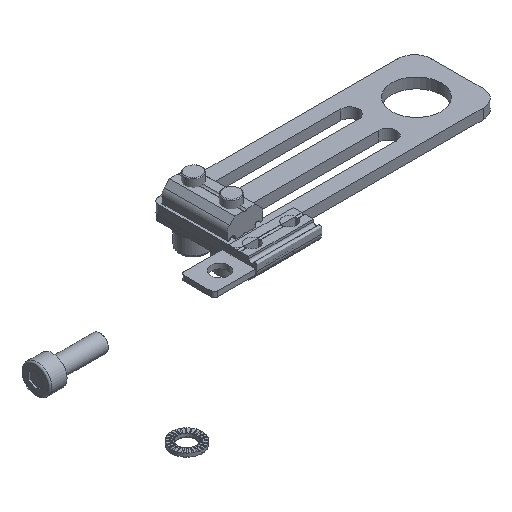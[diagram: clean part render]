
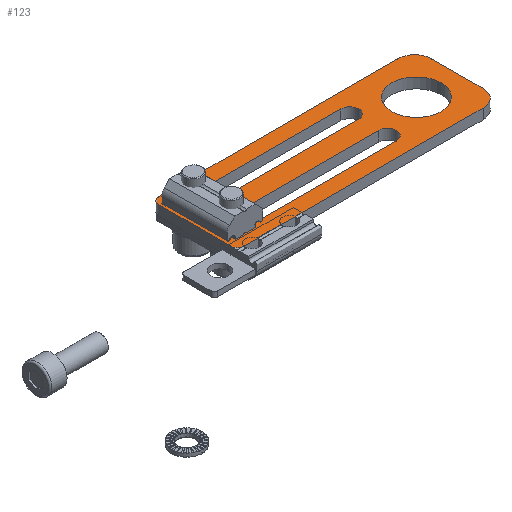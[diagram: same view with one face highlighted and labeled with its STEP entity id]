
A CAD part, isometric view. The second image highlights one B-rep face of the part: STEP entity #123.
In plain terms, the highlighted planar face has unit normal (0, 0, 1).
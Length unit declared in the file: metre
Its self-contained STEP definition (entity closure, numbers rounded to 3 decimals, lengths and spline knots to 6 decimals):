
#123 = ADVANCED_FACE( '', ( #213, #214, #215, #216 ), #217, .T. );
#213 = FACE_BOUND( '', #322, .T. );
#214 = FACE_BOUND( '', #323, .T. );
#215 = FACE_OUTER_BOUND( '', #324, .T. );
#216 = FACE_BOUND( '', #325, .T. );
#217 = PLANE( '', #326 );
#322 = EDGE_LOOP( '', ( #885, #886, #887, #888 ) );
#323 = EDGE_LOOP( '', ( #889, #890, #891, #892 ) );
#324 = EDGE_LOOP( '', ( #893, #894, #895, #896, #897, #898, #899, #900 ) );
#325 = EDGE_LOOP( '', ( #901 ) );
#326 = AXIS2_PLACEMENT_3D( '', #902, #903, #904 );
#885 = ORIENTED_EDGE( '', *, *, #1978, .F. );
#886 = ORIENTED_EDGE( '', *, *, #1989, .F. );
#887 = ORIENTED_EDGE( '', *, *, #1990, .F. );
#888 = ORIENTED_EDGE( '', *, *, #1991, .F. );
#889 = ORIENTED_EDGE( '', *, *, #1992, .F. );
#890 = ORIENTED_EDGE( '', *, *, #1993, .F. );
#891 = ORIENTED_EDGE( '', *, *, #1994, .F. );
#892 = ORIENTED_EDGE( '', *, *, #1995, .F. );
#893 = ORIENTED_EDGE( '', *, *, #1996, .T. );
#894 = ORIENTED_EDGE( '', *, *, #1997, .T. );
#895 = ORIENTED_EDGE( '', *, *, #1971, .T. );
#896 = ORIENTED_EDGE( '', *, *, #1998, .T. );
#897 = ORIENTED_EDGE( '', *, *, #1999, .T. );
#898 = ORIENTED_EDGE( '', *, *, #1984, .T. );
#899 = ORIENTED_EDGE( '', *, *, #2000, .T. );
#900 = ORIENTED_EDGE( '', *, *, #2001, .T. );
#901 = ORIENTED_EDGE( '', *, *, #1981, .F. );
#902 = CARTESIAN_POINT( '', ( 0., 0.000386, 0.003 ) );
#903 = DIRECTION( '', ( 0., 0., 1. ) );
#904 = DIRECTION( '', ( 1., 0., 0. ) );
#1971 = EDGE_CURVE( '', #2980, #2981, #2982, .T. );
#1978 = EDGE_CURVE( '', #2992, #2994, #2995, .T. );
#1981 = EDGE_CURVE( '', #2998, #2998, #2999, .T. );
#1984 = EDGE_CURVE( '', #3003, #3004, #3005, .T. );
#1989 = EDGE_CURVE( '', #3012, #2992, #3013, .T. );
#1990 = EDGE_CURVE( '', #3014, #3012, #3015, .T. );
#1991 = EDGE_CURVE( '', #2994, #3014, #3016, .T. );
#1992 = EDGE_CURVE( '', #3017, #3018, #3019, .T. );
#1993 = EDGE_CURVE( '', #3020, #3017, #3021, .T. );
#1994 = EDGE_CURVE( '', #3022, #3020, #3023, .T. );
#1995 = EDGE_CURVE( '', #3018, #3022, #3024, .T. );
#1996 = EDGE_CURVE( '', #3025, #3026, #3027, .T. );
#1997 = EDGE_CURVE( '', #3026, #2980, #3028, .T. );
#1998 = EDGE_CURVE( '', #2981, #3029, #3030, .T. );
#1999 = EDGE_CURVE( '', #3029, #3003, #3031, .T. );
#2000 = EDGE_CURVE( '', #3004, #3032, #3033, .T. );
#2001 = EDGE_CURVE( '', #3032, #3025, #3034, .T. );
#2980 = VERTEX_POINT( '', #7076 );
#2981 = VERTEX_POINT( '', #7077 );
#2982 = LINE( '', #7078, #7079 );
#2992 = VERTEX_POINT( '', #7092 );
#2994 = VERTEX_POINT( '', #7095 );
#2995 = CIRCLE( '', #7096, 0.0026 );
#2998 = VERTEX_POINT( '', #7100 );
#2999 = CIRCLE( '', #7101, 0.00725 );
#3003 = VERTEX_POINT( '', #7105 );
#3004 = VERTEX_POINT( '', #7106 );
#3005 = CIRCLE( '', #7107, 0.002 );
#3012 = VERTEX_POINT( '', #7116 );
#3013 = LINE( '', #7117, #7118 );
#3014 = VERTEX_POINT( '', #7119 );
#3015 = CIRCLE( '', #7120, 0.0026 );
#3016 = LINE( '', #7121, #7122 );
#3017 = VERTEX_POINT( '', #7123 );
#3018 = VERTEX_POINT( '', #7124 );
#3019 = CIRCLE( '', #7125, 0.0026 );
#3020 = VERTEX_POINT( '', #7126 );
#3021 = LINE( '', #7127, #7128 );
#3022 = VERTEX_POINT( '', #7129 );
#3023 = CIRCLE( '', #7130, 0.0026 );
#3024 = LINE( '', #7131, #7132 );
#3025 = VERTEX_POINT( '', #7133 );
#3026 = VERTEX_POINT( '', #7134 );
#3027 = LINE( '', #7135, #7136 );
#3028 = CIRCLE( '', #7137, 0.005 );
#3029 = VERTEX_POINT( '', #7138 );
#3030 = CIRCLE( '', #7139, 0.002 );
#3031 = LINE( '', #7140, #7141 );
#3032 = VERTEX_POINT( '', #7142 );
#3033 = LINE( '', #7143, #7144 );
#3034 = CIRCLE( '', #7145, 0.005 );
#7076 = CARTESIAN_POINT( '', ( 0.072, 0.025386, 0.003 ) );
#7077 = CARTESIAN_POINT( '', ( 0.002, 0.025386, 0.003 ) );
#7078 = CARTESIAN_POINT( '', ( 0., 0.025386, 0.003 ) );
#7079 = VECTOR( '', #8521, 1. );
#7092 = CARTESIAN_POINT( '', ( 0.005245, 0.009986, 0.003 ) );
#7095 = CARTESIAN_POINT( '', ( 0.005245, 0.004786, 0.003 ) );
#7096 = AXIS2_PLACEMENT_3D( '', #8529, #8530, #8531 );
#7100 = CARTESIAN_POINT( '', ( 0.07225, 0.012886, 0.003 ) );
#7101 = AXIS2_PLACEMENT_3D( '', #8533, #8534, #8535 );
#7105 = CARTESIAN_POINT( '', ( 0., 0.002386, 0.003 ) );
#7106 = CARTESIAN_POINT( '', ( 0.002, 0.000386, 0.003 ) );
#7107 = AXIS2_PLACEMENT_3D( '', #8539, #8540, #8541 );
#7116 = CARTESIAN_POINT( '', ( 0.051045, 0.009986, 0.003 ) );
#7117 = CARTESIAN_POINT( '', ( 0.003145, 0.009986, 0.003 ) );
#7118 = VECTOR( '', #8547, 1. );
#7119 = CARTESIAN_POINT( '', ( 0.051045, 0.004786, 0.003 ) );
#7120 = AXIS2_PLACEMENT_3D( '', #8548, #8549, #8550 );
#7121 = CARTESIAN_POINT( '', ( 0.003145, 0.004786, 0.003 ) );
#7122 = VECTOR( '', #8551, 1. );
#7123 = CARTESIAN_POINT( '', ( 0.005167, 0.020986, 0.003 ) );
#7124 = CARTESIAN_POINT( '', ( 0.005167, 0.015786, 0.003 ) );
#7125 = AXIS2_PLACEMENT_3D( '', #8552, #8553, #8554 );
#7126 = CARTESIAN_POINT( '', ( 0.050967, 0.020986, 0.003 ) );
#7127 = CARTESIAN_POINT( '', ( 0.003067, 0.020986, 0.003 ) );
#7128 = VECTOR( '', #8555, 1. );
#7129 = CARTESIAN_POINT( '', ( 0.050967, 0.015786, 0.003 ) );
#7130 = AXIS2_PLACEMENT_3D( '', #8556, #8557, #8558 );
#7131 = CARTESIAN_POINT( '', ( 0.003067, 0.015786, 0.003 ) );
#7132 = VECTOR( '', #8559, 1. );
#7133 = CARTESIAN_POINT( '', ( 0.077, 0.005386, 0.003 ) );
#7134 = CARTESIAN_POINT( '', ( 0.077, 0.020386, 0.003 ) );
#7135 = CARTESIAN_POINT( '', ( 0.077, 0.025386, 0.003 ) );
#7136 = VECTOR( '', #8560, 1. );
#7137 = AXIS2_PLACEMENT_3D( '', #8561, #8562, #8563 );
#7138 = CARTESIAN_POINT( '', ( 0., 0.023386, 0.003 ) );
#7139 = AXIS2_PLACEMENT_3D( '', #8564, #8565, #8566 );
#7140 = CARTESIAN_POINT( '', ( 0., 0.025386, 0.003 ) );
#7141 = VECTOR( '', #8567, 1. );
#7142 = CARTESIAN_POINT( '', ( 0.072, 0.000386, 0.003 ) );
#7143 = CARTESIAN_POINT( '', ( 0., 0.000386, 0.003 ) );
#7144 = VECTOR( '', #8568, 1. );
#7145 = AXIS2_PLACEMENT_3D( '', #8569, #8570, #8571 );
#8521 = DIRECTION( '', ( -1., 0., 0. ) );
#8529 = CARTESIAN_POINT( '', ( 0.005245, 0.007386, 0.003 ) );
#8530 = DIRECTION( '', ( 0., 0., 1. ) );
#8531 = DIRECTION( '', ( 0., -1., 0. ) );
#8533 = CARTESIAN_POINT( '', ( 0.065, 0.012886, 0.003 ) );
#8534 = DIRECTION( '', ( 0., 0., 1. ) );
#8535 = DIRECTION( '', ( 1., 0., 0. ) );
#8539 = CARTESIAN_POINT( '', ( 0.002, 0.002386, 0.003 ) );
#8540 = DIRECTION( '', ( 0., 0., 1. ) );
#8541 = DIRECTION( '', ( 1., 0., 0. ) );
#8547 = DIRECTION( '', ( -1., 0., 0. ) );
#8548 = CARTESIAN_POINT( '', ( 0.051045, 0.007386, 0.003 ) );
#8549 = DIRECTION( '', ( 0., 0., 1. ) );
#8550 = DIRECTION( '', ( 0., -1., 0. ) );
#8551 = DIRECTION( '', ( 1., 0., 0. ) );
#8552 = CARTESIAN_POINT( '', ( 0.005167, 0.018386, 0.003 ) );
#8553 = DIRECTION( '', ( 0., 0., 1. ) );
#8554 = DIRECTION( '', ( 0., -1., 0. ) );
#8555 = DIRECTION( '', ( -1., 0., 0. ) );
#8556 = CARTESIAN_POINT( '', ( 0.050967, 0.018386, 0.003 ) );
#8557 = DIRECTION( '', ( 0., 0., 1. ) );
#8558 = DIRECTION( '', ( 0., -1., 0. ) );
#8559 = DIRECTION( '', ( 1., 0., 0. ) );
#8560 = DIRECTION( '', ( 0., 1., 0. ) );
#8561 = CARTESIAN_POINT( '', ( 0.072, 0.020386, 0.003 ) );
#8562 = DIRECTION( '', ( 0., 0., 1. ) );
#8563 = DIRECTION( '', ( 1., 0., 0. ) );
#8564 = CARTESIAN_POINT( '', ( 0.002, 0.023386, 0.003 ) );
#8565 = DIRECTION( '', ( 0., 0., 1. ) );
#8566 = DIRECTION( '', ( 1., 0., 0. ) );
#8567 = DIRECTION( '', ( 0., -1., 0. ) );
#8568 = DIRECTION( '', ( 1., 0., 0. ) );
#8569 = CARTESIAN_POINT( '', ( 0.072, 0.005386, 0.003 ) );
#8570 = DIRECTION( '', ( 0., 0., 1. ) );
#8571 = DIRECTION( '', ( 1., 0., 0. ) );
